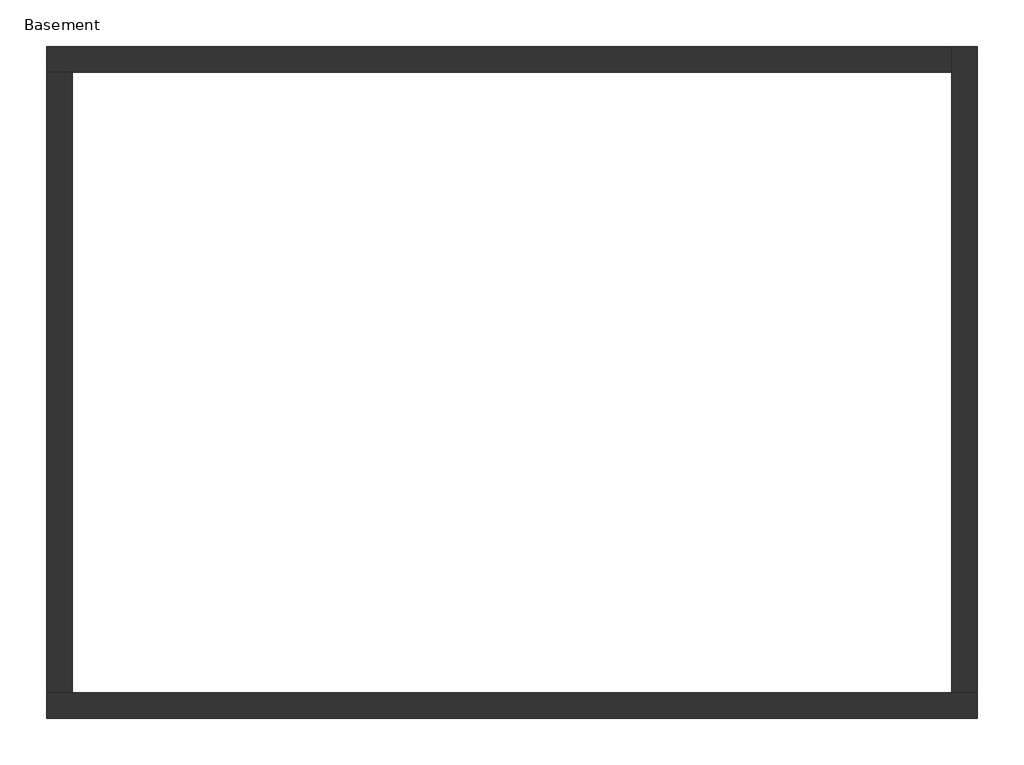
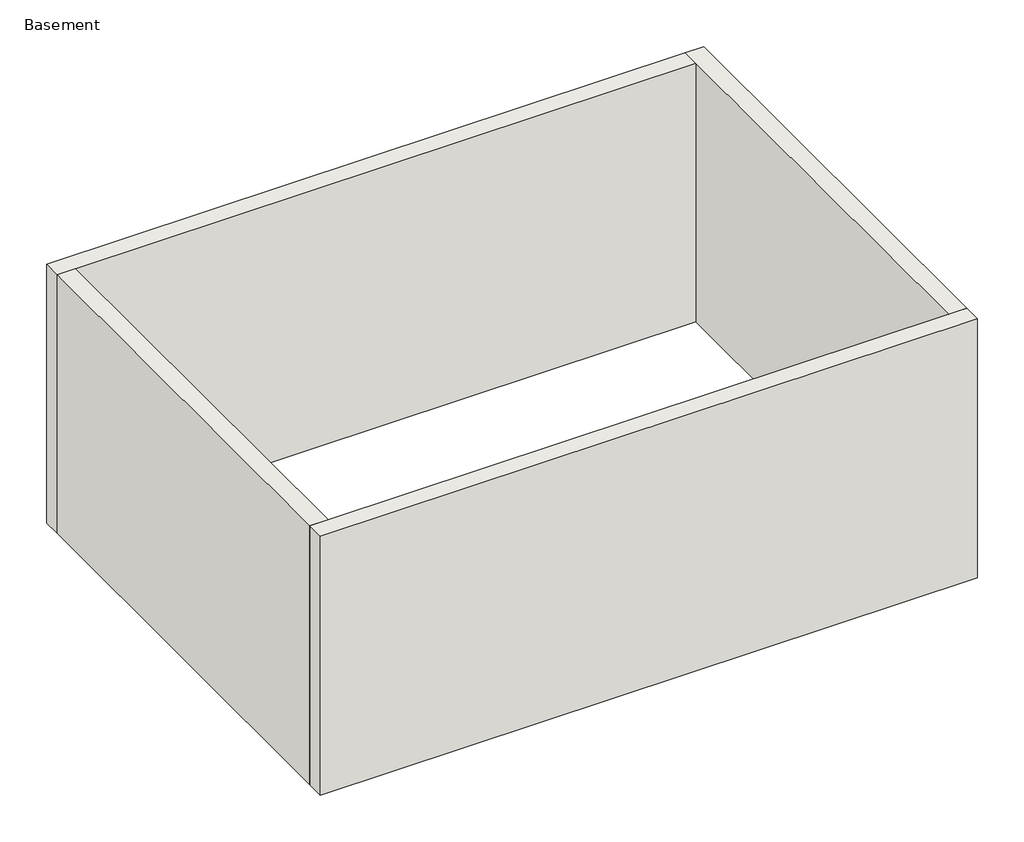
# One storey: 4 walls.
"""IFC4 building model written with IfcOpenShell, lengths in millimetres."""

from ifc_helpers import new_model, si_unit, frame, origin, place, context, project, spatial, polyline, outline, extrude, faceted_brep, element, save

model = new_model("IFC4")

# Units and contexts
model_context = context("Model", 3, world=origin())
ifc_project = project(units=[si_unit("LENGTHUNIT", "METRE", prefix="MILLI")], contexts=[model_context])

# Site, building, storey
site = spatial("IfcSite", under=ifc_project)
building = spatial("IfcBuilding", under=site)
storey = spatial("IfcBuildingStorey", under=building, Name="Basement", Elevation=-3000.0)

# Walls
placement = place(None, origin())
element("IfcWall", 1, ObjectType="Generic - 200mm", at=placement, inside=storey, context=model_context, shape_type="Brep", body=[
    faceted_brep([(-10736.9407541, -189.6274468, -3000.0), (-3536.9407541, -189.6274468, -3000.0), (-3536.9407541, -189.6274468, 0.0), (-10736.9407541, -189.6274468, 0.0), (-10736.9407541, 10.3725532, -3000.0), (-10736.9407541, 10.3725532, 0.0), (-10536.9407541, 10.3725532, 0.0), (-3736.9407541, 10.3725532, 0.0), (-3536.9407541, 10.3725532, 0.0), (-3536.9407541, 10.3725532, -3000.0), (-3736.9407541, 10.3725532, -3000.0), (-10536.9407541, 10.3725532, -3000.0)], [[[0, 1, 2, 3]], [[4, 5, 6, 7, 8, 9, 10, 11]], [[1, 0, 4, 11, 10, 9]], [[3, 2, 8, 7, 6, 5]], [[2, 1, 9, 8]], [[0, 3, 5, 4]]]),
])
element("IfcWall", 2, ObjectType="Generic - 200mm", at=placement, inside=storey, context=model_context, shape_type="Brep", body=[
    faceted_brep([(-3536.9407541, 10.3725532, -3000.0), (-3536.9407541, 5010.3725532, -3000.0), (-3536.9407541, 5010.3725532, 0.0), (-3536.9407541, 10.3725532, 0.0), (-3736.9407541, 10.3725532, -3000.0), (-3736.9407541, 10.3725532, 0.0), (-3736.9407541, 4810.3725532, 0.0), (-3736.9407541, 5010.3725532, 0.0), (-3736.9407541, 5010.3725532, -3000.0), (-3736.9407541, 4810.3725532, -3000.0)], [[[0, 1, 2, 3]], [[4, 5, 6, 7, 8, 9]], [[1, 0, 4, 9, 8]], [[3, 2, 7, 6, 5]], [[0, 3, 5, 4]], [[2, 1, 8, 7]]]),
])
element("IfcWall", 3, ObjectType="Generic - 200mm", at=placement, inside=storey, context=model_context, shape_type="Brep", body=[
    faceted_brep([(-3736.9407541, 5010.3725532, -3000.0), (-10736.9407541, 5010.3725532, -3000.0), (-10736.9407541, 5010.3725532, 0.0), (-3736.9407541, 5010.3725532, 0.0), (-3736.9407541, 4810.3725532, -3000.0), (-3736.9407541, 4810.3725532, 0.0), (-10536.9407541, 4810.3725532, 0.0), (-10736.9407541, 4810.3725532, 0.0), (-10736.9407541, 4810.3725532, -3000.0), (-10536.9407541, 4810.3725532, -3000.0)], [[[0, 1, 2, 3]], [[4, 5, 6, 7, 8, 9]], [[1, 0, 4, 9, 8]], [[3, 2, 7, 6, 5]], [[0, 3, 5, 4]], [[2, 1, 8, 7]]]),
])
element("IfcWall", 4, ObjectType="Generic - 200mm", at=placement, inside=storey, context=model_context, shape_type="SweptSolid", body=[
    extrude(outline(polyline([(-10736.9407541, 10.3725532), (-10736.9407541, 4810.3725532), (-10536.9407541, 4810.3725532), (-10536.9407541, 10.3725532), (-10736.9407541, 10.3725532)])), frame((0.0, 0.0, -3000.0), z_axis=(0.0, 0.0, 1.0), x_axis=(1.0, 0.0, 0.0)), (0.0, 0.0, 1.0), 3000.0),
])

save(model, "model.ifc")
